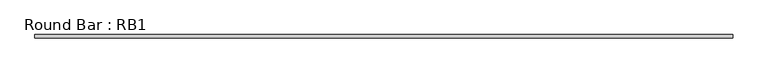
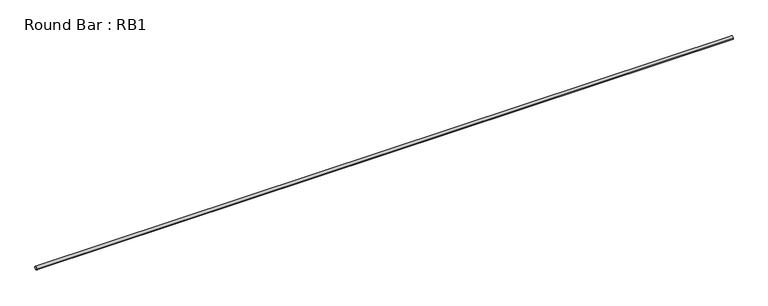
"""IFC4 building model written with IfcOpenShell, lengths in millimetres: member geometry, Round Bar : RB1."""

from ifc_helpers import new_model, si_unit, point, frame, origin, origin_2d, place, context, project, spatial, circle_curve, trimmed, segment, composite_curve, outline, extrude, source, transform, mapped, element, save


def round_bar_rb1_83d75e4f(model_context):
    return source(origin(), model_context, "Body", "SweptSolid", [
        extrude(outline(composite_curve([segment(trimmed(circle_curve(origin_2d(), 12.7), [point((-12.7, 0.0))], [point((12.7, 0.0))], False, "CARTESIAN"), True, "CONTINUOUS"), segment(trimmed(circle_curve(origin_2d(), 12.7), [point((12.7, 0.0))], [point((-12.7, 0.0))], False, "CARTESIAN"), True, "CONTINUOUS")], self_intersect=False)), frame((-2596.3536233, 0.0, 0.0), z_axis=(1.0, 0.0, 0.0), x_axis=(0.0, 1.0, 0.0)), (0.0, 0.0, 1.0), 5160.6230539),
    ])


if __name__ == "__main__":
    model = new_model("IFC4")
    model_context = context("Model", 3, world=origin())
    ifc_project = project(units=[si_unit("LENGTHUNIT", "METRE", prefix="MILLI")], contexts=[model_context])
    site = spatial("IfcSite", under=ifc_project)
    building = spatial("IfcBuilding", under=site)
    placement = place(None, origin())
    round_bar_rb1_shape = round_bar_rb1_83d75e4f(model_context)
    element("IfcMember", 1, ObjectType="Round Bar : RB1", at=placement, inside=building, context=model_context, shape_type="MappedRepresentation", body=[
        mapped(round_bar_rb1_shape, transform((0.0, 0.0, 0.0), x_axis=(1.0, 0.0, 0.0), y_axis=(0.0, 1.0, 0.0), z_axis=(0.0, 0.0, 1.0))),
    ])
    save(model, "model.ifc")
